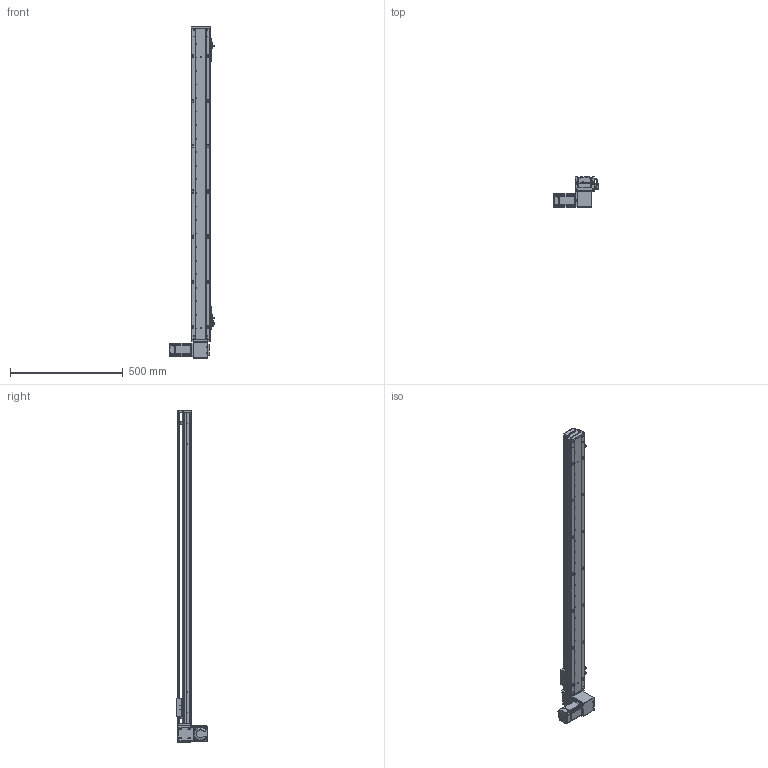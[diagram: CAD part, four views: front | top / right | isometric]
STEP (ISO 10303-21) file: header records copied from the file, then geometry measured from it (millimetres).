
FILE_DESCRIPTION (( 'STEP AP203' ), '1' );
FILE_NAME ('RY80-T-300-DL.SLDASM_1200.step', '2021-03-01T01:38:52', ( '盈信电脑' ), ( '东莞市道滘镇水果街19号' ), 'SwSTEP 2.0', 'SolidWorks 2012', '' );
FILE_SCHEMA (( 'CONFIG_CONTROL_DESIGN' ));
Length unit declared in the file: millimetre
Products named in the file (19): RY100-T粣創揤踡裔; RY80-T-300-DL.SLDASM_1200; RY80-T-上下折同步轮盖板; RY80-T肮祭謫狟殏俋欶; 1; RY80-T-M4蹟翐3; 滅袉蝶18-10; RY80-T肮祭湍揤輸1; RY80-T肮祭湍揤輸2; RY80-T萇儂假蚾啣; RY80-T翋肮祭謫裔啣; RY80-T-翋肮祭謫釱; RY80俋离覜茼え; 覜茼ん672; RY80-T綴裔啣; RY80-T肮祭謫臏賑輸; RY80-T-300-DL倰第奻裔啣_1200; 672嫖萇羲壽假蚾釱; RY80-T-300-DL倰第菁釱_1200
Assembly tree (24 placements, depth 2):
  RY80-T-300-DL.SLDASM_1200
    RY80-T-300-DL倰第菁釱_1200
    RY80-T肮祭謫臏賑輸
    RY80-T-300-DL倰第奻裔啣_1200
    RY80-T綴裔啣
    672嫖萇羲壽假蚾釱  x2
    覜茼ん672  x3
    RY80俋离覜茼え
    RY80-T-翋肮祭謫釱
    RY80-T肮祭湍揤輸1
    RY80-T肮祭湍揤輸2
    RY80-T萇儂假蚾啣
    RY80-T翋肮祭謫裔啣  x2
    滅袉蝶18-10  x2
    1
    RY80-T肮祭謫狟殏俋欶
    RY80-T-M4蹟翐3  x2
    RY80-T-上下折同步轮盖板
    RY100-T粣創揤踡裔
Bounding box: 198.7 x 134.5 x 1470 mm (x, y, z)
Volume: 2446941.2 mm3; surface area: 1038454.6 mm2
Topology: 24 solids, 24 shells, 2502 faces, 6896 edges, 4477 vertices
Faces by surface type: plane 1341, cylinder 956, cone 149, bspline 56
Entity records: 78615 total; most frequent: CARTESIAN_POINT 18990, ORIENTED_EDGE 12236, DIRECTION 11528, EDGE_CURVE 6118, VERTEX_POINT 4018, AXIS2_PLACEMENT_3D 3880, VECTOR 3768, LINE 3768
